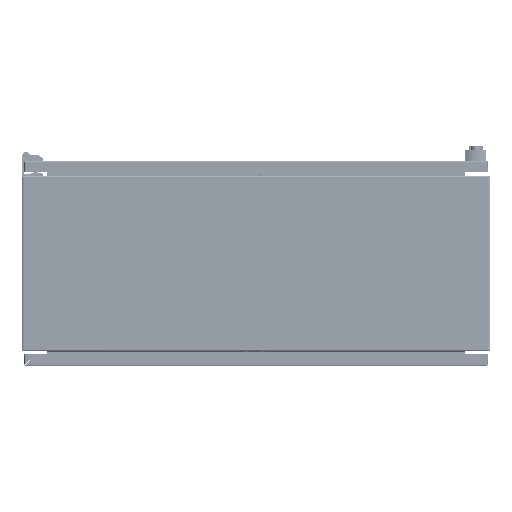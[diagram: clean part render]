
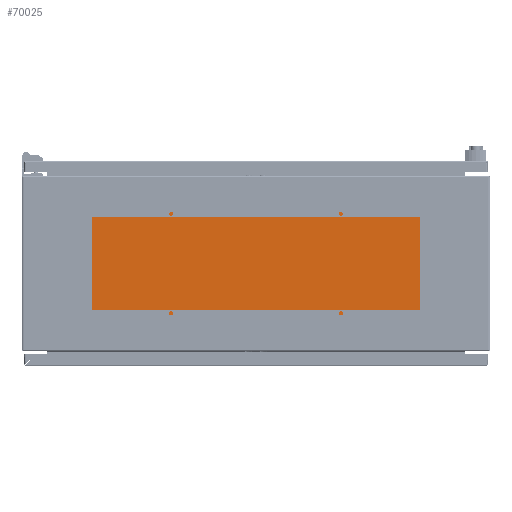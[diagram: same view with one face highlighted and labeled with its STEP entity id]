
A CAD part, front view. The second image highlights one B-rep face of the part: STEP entity #70025.
In plain terms, the highlighted planar face has unit normal (0, -1, 0).
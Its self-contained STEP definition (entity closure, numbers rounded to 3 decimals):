
#49921 = CARTESIAN_POINT ( 'NONE',  ( -144.5, 2003., 85. ) ) ;
#49925 = DIRECTION ( 'NONE',  ( 1., 0., 0. ) ) ;
#49927 = DIRECTION ( 'NONE',  ( 0., -1., 0. ) ) ;
#49930 = CARTESIAN_POINT ( 'NONE',  ( -145., 2003., 85. ) ) ;
#49932 = AXIS2_PLACEMENT_3D ( 'NONE', #49930, #49927, #49925 ) ;
#49935 = CIRCLE ( 'NONE', #49932, 0.5 ) ;
#49952 = CARTESIAN_POINT ( 'NONE',  ( -145.5, 2003., 85. ) ) ;
#50609 = CARTESIAN_POINT ( 'NONE',  ( 145.5, 2003., 85. ) ) ;
#51101 = DIRECTION ( 'NONE',  ( 1., 0., 0. ) ) ;
#51104 = DIRECTION ( 'NONE',  ( 0., -1., 0. ) ) ;
#51108 = CARTESIAN_POINT ( 'NONE',  ( 145., 2003., 85. ) ) ;
#51110 = AXIS2_PLACEMENT_3D ( 'NONE', #51108, #51104, #51101 ) ;
#51112 = CIRCLE ( 'NONE', #51110, 0.5 ) ;
#51124 = CARTESIAN_POINT ( 'NONE',  ( 144.5, 2003., 85. ) ) ;
#51530 = CARTESIAN_POINT ( 'NONE',  ( 145.5, 2003., -85. ) ) ;
#51532 = DIRECTION ( 'NONE',  ( 1., 0., 0. ) ) ;
#51534 = DIRECTION ( 'NONE',  ( 0., -1., 0. ) ) ;
#51535 = CARTESIAN_POINT ( 'NONE',  ( 145., 2003., -85. ) ) ;
#51538 = AXIS2_PLACEMENT_3D ( 'NONE', #51535, #51534, #51532 ) ;
#51539 = CIRCLE ( 'NONE', #51538, 0.5 ) ;
#51548 = CARTESIAN_POINT ( 'NONE',  ( 144.5, 2003., -85. ) ) ;
#51600 = CARTESIAN_POINT ( 'NONE',  ( -144.5, 2003., -85. ) ) ;
#51602 = CARTESIAN_POINT ( 'NONE',  ( -145.5, 2003., -85. ) ) ;
#51890 = AXIS2_PLACEMENT_3D ( 'NONE', #52124, #52122, #52118 ) ;
#51892 = CIRCLE ( 'NONE', #51890, 0.5 ) ;
#52118 = DIRECTION ( 'NONE',  ( 1., 0., 0. ) ) ;
#52122 = DIRECTION ( 'NONE',  ( 0., -1., 0. ) ) ;
#52124 = CARTESIAN_POINT ( 'NONE',  ( -145., 2003., -85. ) ) ;
#53141 = FACE_OUTER_BOUND ( 'NONE', #69994, .T. ) ;
#53143 = FACE_BOUND ( 'NONE', #70162, .T. ) ;
#53145 = FACE_BOUND ( 'NONE', #70156, .T. ) ;
#53148 = FACE_BOUND ( 'NONE', #70037, .T. ) ;
#53151 = FACE_BOUND ( 'NONE', #70029, .T. ) ;
#53168 = CARTESIAN_POINT ( 'NONE',  ( -309.343, 2003., -110.536 ) ) ;
#53170 = CARTESIAN_POINT ( 'NONE',  ( -310.536, 2003., -109.343 ) ) ;
#53174 = DIRECTION ( 'NONE',  ( 0.707, 0., -0.707 ) ) ;
#53175 = VECTOR ( 'NONE', #53174, 1000. ) ;
#53178 = CARTESIAN_POINT ( 'NONE',  ( -309.939, 2003., -109.939 ) ) ;
#53180 = LINE ( 'NONE', #53178, #53175 ) ;
#53187 = DIRECTION ( 'NONE',  ( 1., 0., 0. ) ) ;
#53190 = DIRECTION ( 'NONE',  ( 0., -1., 0. ) ) ;
#53191 = CARTESIAN_POINT ( 'NONE',  ( -145., 2003., -85. ) ) ;
#53193 = AXIS2_PLACEMENT_3D ( 'NONE', #53191, #53190, #53187 ) ;
#53196 = CIRCLE ( 'NONE', #53193, 0.5 ) ;
#53283 = DIRECTION ( 'NONE',  ( 1., 0., 0. ) ) ;
#53284 = DIRECTION ( 'NONE',  ( 0., -1., 0. ) ) ;
#53286 = CARTESIAN_POINT ( 'NONE',  ( -145., 2003., 85. ) ) ;
#53288 = AXIS2_PLACEMENT_3D ( 'NONE', #53286, #53284, #53283 ) ;
#53289 = CIRCLE ( 'NONE', #53288, 0.5 ) ;
#53298 = DIRECTION ( 'NONE',  ( 1., 0., 0. ) ) ;
#53301 = DIRECTION ( 'NONE',  ( 0., -1., 0. ) ) ;
#53305 = CARTESIAN_POINT ( 'NONE',  ( -314., 2003., -114. ) ) ;
#53307 = AXIS2_PLACEMENT_3D ( 'NONE', #53305, #53301, #53298 ) ;
#53314 = PLANE ( 'NONE',  #53307 ) ;
#53565 = LINE ( 'NONE', #53807, #53805 ) ;
#53779 = DIRECTION ( 'NONE',  ( 0., 0., -1. ) ) ;
#53781 = VECTOR ( 'NONE', #53779, 1000. ) ;
#53783 = CARTESIAN_POINT ( 'NONE',  ( -310.536, 2003., -114. ) ) ;
#53785 = LINE ( 'NONE', #53783, #53781 ) ;
#53797 = CARTESIAN_POINT ( 'NONE',  ( -310.536, 2003., 109.343 ) ) ;
#53801 = DIRECTION ( 'NONE',  ( 0.707, 0., 0.707 ) ) ;
#53805 = VECTOR ( 'NONE', #53801, 1000. ) ;
#53807 = CARTESIAN_POINT ( 'NONE',  ( -309.939, 2003., 109.939 ) ) ;
#53814 = CARTESIAN_POINT ( 'NONE',  ( -309.343, 2003., 110.536 ) ) ;
#53818 = DIRECTION ( 'NONE',  ( -1., 0., 0. ) ) ;
#53820 = VECTOR ( 'NONE', #53818, 1000. ) ;
#53821 = CARTESIAN_POINT ( 'NONE',  ( -314., 2003., 110.536 ) ) ;
#53823 = LINE ( 'NONE', #53821, #53820 ) ;
#53830 = CARTESIAN_POINT ( 'NONE',  ( 309.343, 2003., 110.536 ) ) ;
#53833 = DIRECTION ( 'NONE',  ( -0.707, 0., 0.707 ) ) ;
#53835 = VECTOR ( 'NONE', #53833, 1000. ) ;
#53837 = CARTESIAN_POINT ( 'NONE',  ( 109.939, 2003., 309.939 ) ) ;
#53840 = LINE ( 'NONE', #53837, #53835 ) ;
#53848 = CARTESIAN_POINT ( 'NONE',  ( 310.536, 2003., 109.343 ) ) ;
#53851 = DIRECTION ( 'NONE',  ( 0., 0., 1. ) ) ;
#53854 = VECTOR ( 'NONE', #53851, 1000. ) ;
#53856 = CARTESIAN_POINT ( 'NONE',  ( 310.536, 2003., -114. ) ) ;
#53857 = LINE ( 'NONE', #53856, #53854 ) ;
#53866 = CARTESIAN_POINT ( 'NONE',  ( 310.536, 2003., -109.343 ) ) ;
#53871 = DIRECTION ( 'NONE',  ( -0.707, 0., -0.707 ) ) ;
#53874 = VECTOR ( 'NONE', #53871, 1000. ) ;
#53875 = CARTESIAN_POINT ( 'NONE',  ( 309.939, 2003., -109.939 ) ) ;
#53878 = LINE ( 'NONE', #53875, #53874 ) ;
#53888 = CARTESIAN_POINT ( 'NONE',  ( 309.343, 2003., -110.536 ) ) ;
#53892 = DIRECTION ( 'NONE',  ( 1., 0., 0. ) ) ;
#53893 = VECTOR ( 'NONE', #53892, 1000. ) ;
#53896 = CARTESIAN_POINT ( 'NONE',  ( -314., 2003., -110.536 ) ) ;
#53904 = LINE ( 'NONE', #53896, #53893 ) ;
#54020 = DIRECTION ( 'NONE',  ( 1., 0., 0. ) ) ;
#54024 = DIRECTION ( 'NONE',  ( 0., -1., 0. ) ) ;
#54026 = AXIS2_PLACEMENT_3D ( 'NONE', #54051, #54024, #54020 ) ;
#54029 = CIRCLE ( 'NONE', #54026, 0.5 ) ;
#54040 = DIRECTION ( 'NONE',  ( 1., 0., 0. ) ) ;
#54043 = DIRECTION ( 'NONE',  ( 0., -1., 0. ) ) ;
#54044 = CARTESIAN_POINT ( 'NONE',  ( 145., 2003., 85. ) ) ;
#54047 = AXIS2_PLACEMENT_3D ( 'NONE', #54044, #54043, #54040 ) ;
#54049 = CIRCLE ( 'NONE', #54047, 0.5 ) ;
#54051 = CARTESIAN_POINT ( 'NONE',  ( 145., 2003., -85. ) ) ;
#69409 = VERTEX_POINT ( 'NONE', #49952 ) ;
#69414 = EDGE_CURVE ( 'NONE', #69409, #69415, #49935, .T. ) ;
#69415 = VERTEX_POINT ( 'NONE', #49921 ) ;
#69523 = VERTEX_POINT ( 'NONE', #50609 ) ;
#69590 = VERTEX_POINT ( 'NONE', #51124 ) ;
#69594 = EDGE_CURVE ( 'NONE', #69590, #69523, #51112, .T. ) ;
#69670 = VERTEX_POINT ( 'NONE', #51602 ) ;
#69673 = VERTEX_POINT ( 'NONE', #51600 ) ;
#69693 = VERTEX_POINT ( 'NONE', #51548 ) ;
#69696 = EDGE_CURVE ( 'NONE', #69693, #69697, #51539, .T. ) ;
#69697 = VERTEX_POINT ( 'NONE', #51530 ) ;
#69793 = EDGE_CURVE ( 'NONE', #69670, #69673, #51892, .T. ) ;
#69984 = ORIENTED_EDGE ( 'NONE', *, *, #69987, .F. ) ;
#69987 = EDGE_CURVE ( 'NONE', #69673, #69670, #53196, .T. ) ;
#69990 = ORIENTED_EDGE ( 'NONE', *, *, #69793, .F. ) ;
#69994 = EDGE_LOOP ( 'NONE', ( #69996, #70118, #70126, #70133, #70138, #70146, #70082, #70089 ) ) ;
#69996 = ORIENTED_EDGE ( 'NONE', *, *, #69997, .T. ) ;
#69997 = EDGE_CURVE ( 'NONE', #69999, #70001, #53180, .T. ) ;
#69999 = VERTEX_POINT ( 'NONE', #53170 ) ;
#70001 = VERTEX_POINT ( 'NONE', #53168 ) ;
#70025 = ADVANCED_FACE ( 'NONE', ( #53151, #53148, #53145, #53143, #53141 ), #53314, .T. ) ;
#70029 = EDGE_LOOP ( 'NONE', ( #70031, #70036 ) ) ;
#70031 = ORIENTED_EDGE ( 'NONE', *, *, #70033, .F. ) ;
#70033 = EDGE_CURVE ( 'NONE', #69415, #69409, #53289, .T. ) ;
#70036 = ORIENTED_EDGE ( 'NONE', *, *, #69414, .F. ) ;
#70037 = EDGE_LOOP ( 'NONE', ( #70040, #70154 ) ) ;
#70040 = ORIENTED_EDGE ( 'NONE', *, *, #70152, .F. ) ;
#70082 = ORIENTED_EDGE ( 'NONE', *, *, #70084, .F. ) ;
#70084 = EDGE_CURVE ( 'NONE', #70087, #70149, #53565, .T. ) ;
#70087 = VERTEX_POINT ( 'NONE', #53797 ) ;
#70089 = ORIENTED_EDGE ( 'NONE', *, *, #70092, .T. ) ;
#70092 = EDGE_CURVE ( 'NONE', #70087, #69999, #53785, .T. ) ;
#70118 = ORIENTED_EDGE ( 'NONE', *, *, #70120, .T. ) ;
#70120 = EDGE_CURVE ( 'NONE', #70001, #70122, #53904, .T. ) ;
#70122 = VERTEX_POINT ( 'NONE', #53888 ) ;
#70126 = ORIENTED_EDGE ( 'NONE', *, *, #70131, .F. ) ;
#70131 = EDGE_CURVE ( 'NONE', #70132, #70122, #53878, .T. ) ;
#70132 = VERTEX_POINT ( 'NONE', #53866 ) ;
#70133 = ORIENTED_EDGE ( 'NONE', *, *, #70134, .T. ) ;
#70134 = EDGE_CURVE ( 'NONE', #70132, #70136, #53857, .T. ) ;
#70136 = VERTEX_POINT ( 'NONE', #53848 ) ;
#70138 = ORIENTED_EDGE ( 'NONE', *, *, #70142, .T. ) ;
#70142 = EDGE_CURVE ( 'NONE', #70136, #70144, #53840, .T. ) ;
#70144 = VERTEX_POINT ( 'NONE', #53830 ) ;
#70146 = ORIENTED_EDGE ( 'NONE', *, *, #70148, .T. ) ;
#70148 = EDGE_CURVE ( 'NONE', #70144, #70149, #53823, .T. ) ;
#70149 = VERTEX_POINT ( 'NONE', #53814 ) ;
#70152 = EDGE_CURVE ( 'NONE', #69523, #69590, #54049, .T. ) ;
#70154 = ORIENTED_EDGE ( 'NONE', *, *, #69594, .F. ) ;
#70156 = EDGE_LOOP ( 'NONE', ( #70157, #70160 ) ) ;
#70157 = ORIENTED_EDGE ( 'NONE', *, *, #70158, .F. ) ;
#70158 = EDGE_CURVE ( 'NONE', #69697, #69693, #54029, .T. ) ;
#70160 = ORIENTED_EDGE ( 'NONE', *, *, #69696, .F. ) ;
#70162 = EDGE_LOOP ( 'NONE', ( #69984, #69990 ) ) ;
